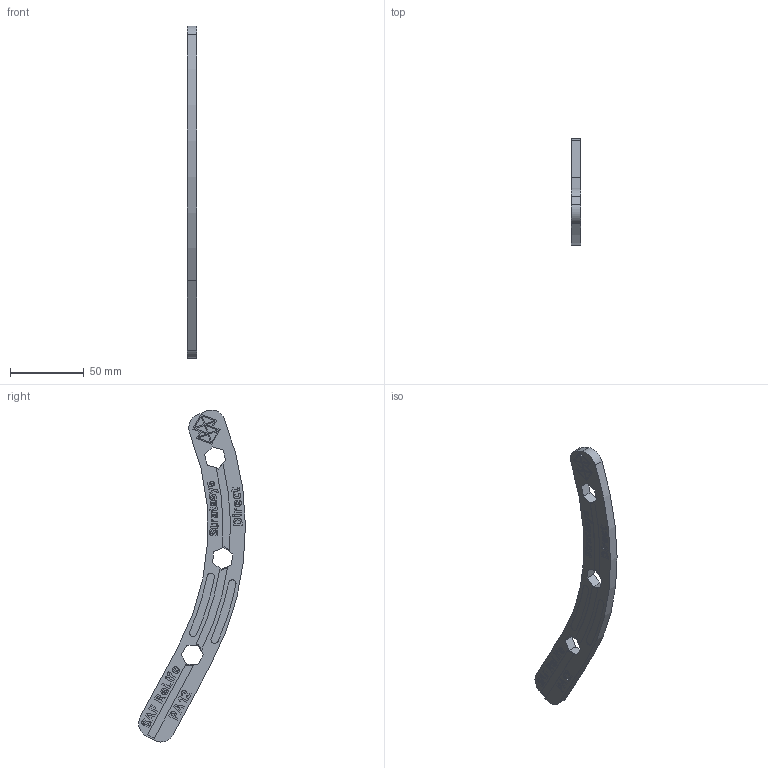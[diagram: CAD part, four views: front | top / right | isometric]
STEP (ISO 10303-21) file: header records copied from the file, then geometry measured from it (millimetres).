
FILE_DESCRIPTION (( 'STEP AP214' ), '1' );
FILE_NAME ('KB-26008_ Hood_1.step', '2025-12-23T15:52:30', ( '' ), ( '' ), 'SwSTEP 2.0', 'SolidWorks 2026', '' );
FILE_SCHEMA (( 'AUTOMOTIVE_DESIGN' ));
Length unit declared in the file: inch
Products named in the file (1): KB-26008_ Hood_1
Bounding box: 6.35 x 72.66 x 225.86 mm (x, y, z)
Volume: 33586.8 mm3; surface area: 15822.5 mm2
Topology: 1 solids, 1 shells, 1373 faces, 3789 edges, 2526 vertices
Faces by surface type: plane 610, bspline 440, cylinder 323
Entity records: 45324 total; most frequent: CARTESIAN_POINT 12969, ORIENTED_EDGE 7578, DIRECTION 5251, EDGE_CURVE 3789, VERTEX_POINT 2526, VECTOR 2091, LINE 2091, AXIS2_PLACEMENT_3D 1580
